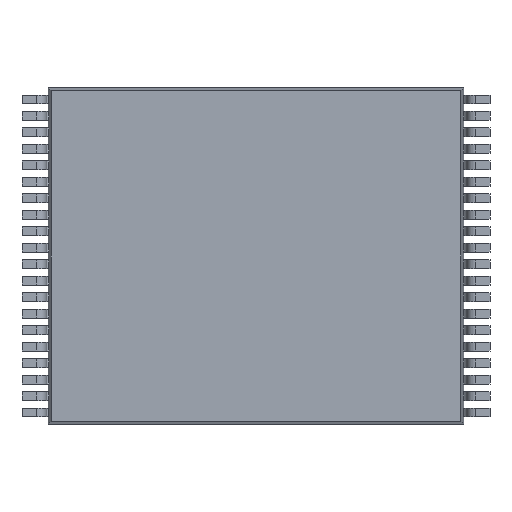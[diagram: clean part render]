
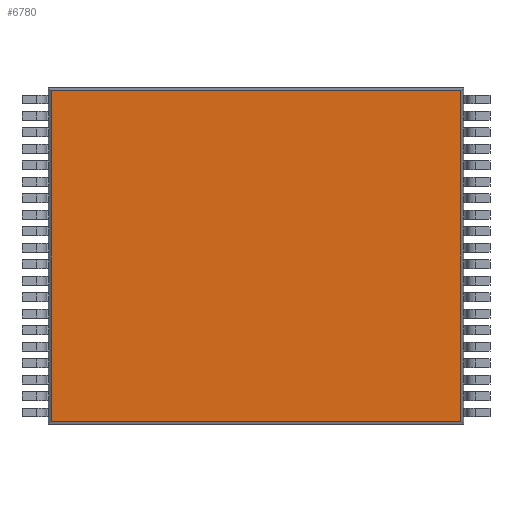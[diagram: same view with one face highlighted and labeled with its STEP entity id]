
A CAD part, front view. The second image highlights one B-rep face of the part: STEP entity #6780.
In plain terms, the highlighted planar face has unit normal (0, -1, 0).
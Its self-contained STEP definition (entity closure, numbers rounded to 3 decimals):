
#87 = PLANE ( 'NONE',  #9464 ) ;
#89 = CARTESIAN_POINT ( 'NONE',  ( 0., 0.1, 0. ) ) ;
#101 = DIRECTION ( 'NONE',  ( 0., 1., 0. ) ) ;
#102 = DIRECTION ( 'NONE',  ( 0., 0., 1. ) ) ;
#3786 = CARTESIAN_POINT ( 'NONE',  ( 6.216, 0.1, 5.016 ) ) ;
#3787 = CARTESIAN_POINT ( 'NONE',  ( 6.216, 0.1, -5.016 ) ) ;
#3798 = CARTESIAN_POINT ( 'NONE',  ( -6.216, 0.1, 5.016 ) ) ;
#3811 = CARTESIAN_POINT ( 'NONE',  ( -6.216, 0.1, -5.016 ) ) ;
#4864 = CARTESIAN_POINT ( 'NONE',  ( -6.216, 0.1, 5.1 ) ) ;
#4895 = DIRECTION ( 'NONE',  ( 0., 0., -1. ) ) ;
#4899 = DIRECTION ( 'NONE',  ( 0., 0., 1. ) ) ;
#4913 = CARTESIAN_POINT ( 'NONE',  ( 6.216, 0.1, 5.1 ) ) ;
#5741 = CARTESIAN_POINT ( 'NONE',  ( 6.3, 0.1, -5.016 ) ) ;
#5742 = DIRECTION ( 'NONE',  ( 1., 0., 0. ) ) ;
#5743 = CARTESIAN_POINT ( 'NONE',  ( 6.3, 0.1, 5.016 ) ) ;
#5744 = DIRECTION ( 'NONE',  ( -1., 0., 0. ) ) ;
#6780 = ADVANCED_FACE ( 'NONE', ( #20045 ), #87, .F. ) ;
#7919 = EDGE_CURVE ( 'NONE', #16716, #16731, #14583, .T. ) ;
#7931 = EDGE_CURVE ( 'NONE', #16705, #16703, #14264, .T. ) ;
#8041 = EDGE_CURVE ( 'NONE', #16731, #16705, #14176, .T. ) ;
#8042 = EDGE_CURVE ( 'NONE', #16703, #16716, #14119, .T. ) ;
#9464 = AXIS2_PLACEMENT_3D ( 'NONE', #89, #101, #102 ) ;
#11065 = ORIENTED_EDGE ( 'NONE', *, *, #8042, .T. ) ;
#11066 = ORIENTED_EDGE ( 'NONE', *, *, #7931, .T. ) ;
#11067 = ORIENTED_EDGE ( 'NONE', *, *, #8041, .T. ) ;
#11068 = ORIENTED_EDGE ( 'NONE', *, *, #7919, .T. ) ;
#14112 = VECTOR ( 'NONE', #5744, 1000. ) ;
#14113 = VECTOR ( 'NONE', #4895, 1000. ) ;
#14116 = VECTOR ( 'NONE', #5742, 1000. ) ;
#14119 = LINE ( 'NONE', #5743, #14112 ) ;
#14176 = LINE ( 'NONE', #5741, #14116 ) ;
#14264 = LINE ( 'NONE', #4913, #14268 ) ;
#14268 = VECTOR ( 'NONE', #4899, 1000. ) ;
#14583 = LINE ( 'NONE', #4864, #14113 ) ;
#16224 = EDGE_LOOP ( 'NONE', ( #11068, #11067, #11066, #11065 ) ) ;
#16703 = VERTEX_POINT ( 'NONE', #3786 ) ;
#16705 = VERTEX_POINT ( 'NONE', #3787 ) ;
#16716 = VERTEX_POINT ( 'NONE', #3798 ) ;
#16731 = VERTEX_POINT ( 'NONE', #3811 ) ;
#20045 = FACE_OUTER_BOUND ( 'NONE', #16224, .T. ) ;
